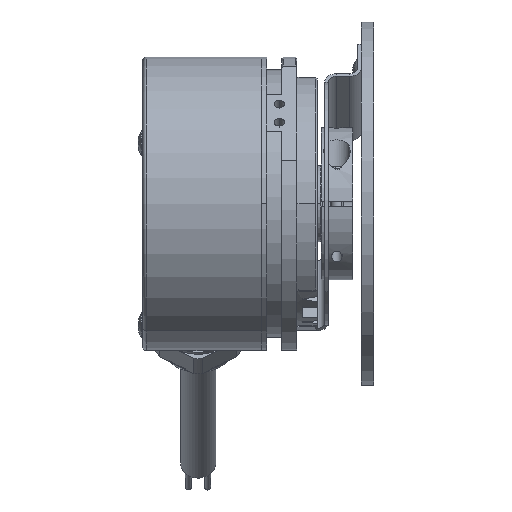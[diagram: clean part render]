
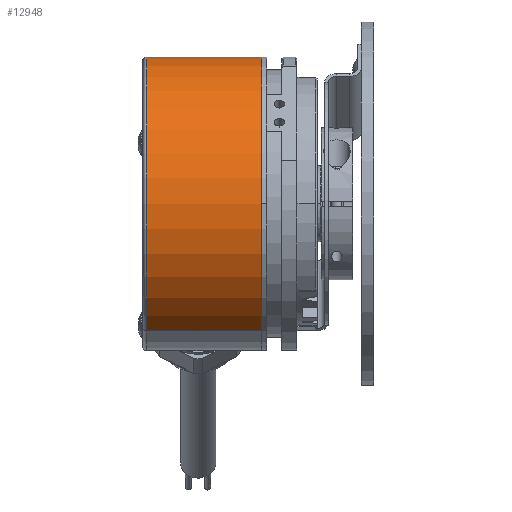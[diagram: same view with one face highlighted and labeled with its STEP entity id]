
A CAD part, top view. The second image highlights one B-rep face of the part: STEP entity #12948.
In plain terms, the highlighted cylindrical face has radius 29 mm (diameter 58 mm), a partial arc.
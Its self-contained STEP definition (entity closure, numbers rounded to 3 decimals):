
#3486 = CARTESIAN_POINT ( 'NONE',  ( -3.2, 25.115, -14.5 ) ) ;
#3487 = DIRECTION ( 'NONE',  ( 0., 0.866, -0.5 ) ) ;
#3488 = DIRECTION ( 'NONE',  ( 1., 0., 0. ) ) ;
#3489 = CARTESIAN_POINT ( 'NONE',  ( -3.2, 0., 0. ) ) ;
#3490 = AXIS2_PLACEMENT_3D ( 'NONE', #3489, #3488, #3487 ) ;
#3491 = CIRCLE ( 'NONE', #3490, 29. ) ;
#3492 = CARTESIAN_POINT ( 'NONE',  ( -3.2, -25.115, 14.5 ) ) ;
#3540 = CARTESIAN_POINT ( 'NONE',  ( 19.5, 0., 0. ) ) ;
#3598 = CARTESIAN_POINT ( 'NONE',  ( 19.5, 25.115, -14.5 ) ) ;
#3599 = CARTESIAN_POINT ( 'NONE',  ( 19.5, -25.115, 14.5 ) ) ;
#3600 = DIRECTION ( 'NONE',  ( 0., -0.866, 0.5 ) ) ;
#3601 = DIRECTION ( 'NONE',  ( -1., 0., 0. ) ) ;
#3602 = AXIS2_PLACEMENT_3D ( 'NONE', #3540, #3601, #3600 ) ;
#3603 = CIRCLE ( 'NONE', #3602, 29. ) ;
#3749 = DIRECTION ( 'NONE',  ( -1., 0., 0. ) ) ;
#3750 = VECTOR ( 'NONE', #3749, 1000. ) ;
#3752 = CARTESIAN_POINT ( 'NONE',  ( -4., -25.115, 14.5 ) ) ;
#3753 = LINE ( 'NONE', #3752, #3750 ) ;
#3754 = DIRECTION ( 'NONE',  ( -1., 0., 0. ) ) ;
#3755 = VECTOR ( 'NONE', #3754, 1000. ) ;
#3756 = CARTESIAN_POINT ( 'NONE',  ( -4., 25.115, -14.5 ) ) ;
#3757 = LINE ( 'NONE', #3756, #3755 ) ;
#3782 = DIRECTION ( 'NONE',  ( 0., -0.866, 0.5 ) ) ;
#3783 = DIRECTION ( 'NONE',  ( -1., 0., 0. ) ) ;
#3784 = CARTESIAN_POINT ( 'NONE',  ( -4., 0., 0. ) ) ;
#3785 = AXIS2_PLACEMENT_3D ( 'NONE', #3784, #3783, #3782 ) ;
#3786 = CYLINDRICAL_SURFACE ( 'NONE', #3785, 29. ) ;
#3788 = FACE_OUTER_BOUND ( 'NONE', #6349, .T. ) ;
#6349 = EDGE_LOOP ( 'NONE', ( #12866, #12928, #12930, #12931 ) ) ;
#12827 = VERTEX_POINT ( 'NONE', #3492 ) ;
#12829 = EDGE_CURVE ( 'NONE', #12830, #12827, #3491, .T. ) ;
#12830 = VERTEX_POINT ( 'NONE', #3486 ) ;
#12866 = ORIENTED_EDGE ( 'NONE', *, *, #12867, .T. ) ;
#12867 = EDGE_CURVE ( 'NONE', #12868, #12869, #3603, .T. ) ;
#12868 = VERTEX_POINT ( 'NONE', #3599 ) ;
#12869 = VERTEX_POINT ( 'NONE', #3598 ) ;
#12928 = ORIENTED_EDGE ( 'NONE', *, *, #12929, .T. ) ;
#12929 = EDGE_CURVE ( 'NONE', #12869, #12830, #3757, .T. ) ;
#12930 = ORIENTED_EDGE ( 'NONE', *, *, #12829, .T. ) ;
#12931 = ORIENTED_EDGE ( 'NONE', *, *, #12932, .F. ) ;
#12932 = EDGE_CURVE ( 'NONE', #12868, #12827, #3753, .T. ) ;
#12948 = ADVANCED_FACE ( 'NONE', ( #3788 ), #3786, .T. ) ;
